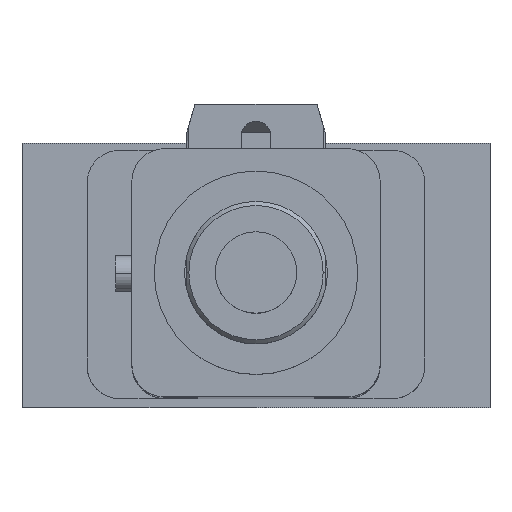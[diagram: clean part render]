
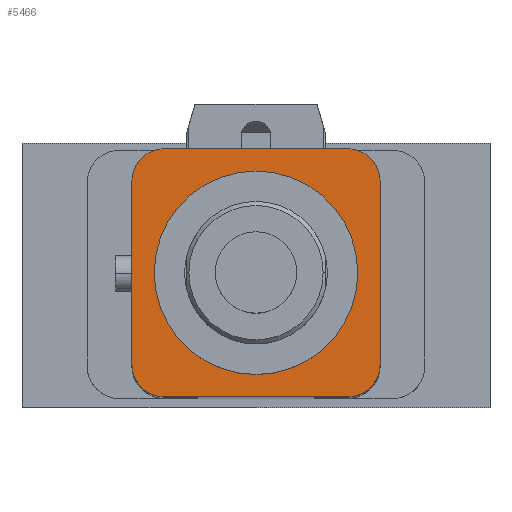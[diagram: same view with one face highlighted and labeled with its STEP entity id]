
A CAD part, top view. The second image highlights one B-rep face of the part: STEP entity #5466.
In plain terms, the highlighted planar face has unit normal (0, 0, 1).
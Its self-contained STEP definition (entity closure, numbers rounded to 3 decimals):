
#1085 = CARTESIAN_POINT ( 'NONE',  ( 22.5, -22.5, 197. ) ) ;
#1288 = DIRECTION ( 'NONE',  ( -1., 0., 0. ) ) ;
#1734 = CARTESIAN_POINT ( 'NONE',  ( -22.5, -22.5, 197. ) ) ;
#2048 = FACE_BOUND ( 'NONE', #23082, .T. ) ;
#2322 = VERTEX_POINT ( 'NONE', #18731 ) ;
#2334 = FACE_OUTER_BOUND ( 'NONE', #11933, .T. ) ;
#2416 = AXIS2_PLACEMENT_3D ( 'NONE', #19076, #3240, #1288 ) ;
#2903 = DIRECTION ( 'NONE',  ( 0., 1., 0. ) ) ;
#3240 = DIRECTION ( 'NONE',  ( 0., 0., 1. ) ) ;
#3517 = LINE ( 'NONE', #9525, #16698 ) ;
#3624 = EDGE_CURVE ( 'NONE', #22860, #19536, #3517, .T. ) ;
#3735 = CARTESIAN_POINT ( 'NONE',  ( 22.5, -22.5, 197. ) ) ;
#3831 = CARTESIAN_POINT ( 'NONE',  ( -25., 0., 197. ) ) ;
#4545 = ORIENTED_EDGE ( 'NONE', *, *, #25243, .T. ) ;
#4645 = DIRECTION ( 'NONE',  ( 1., 0., 0. ) ) ;
#4796 = EDGE_CURVE ( 'NONE', #6942, #10022, #5097, .T. ) ;
#4799 = ORIENTED_EDGE ( 'NONE', *, *, #10128, .T. ) ;
#4940 = ORIENTED_EDGE ( 'NONE', *, *, #18474, .F. ) ;
#5097 = LINE ( 'NONE', #14873, #7835 ) ;
#5440 = DIRECTION ( 'NONE',  ( 0., -1., 0. ) ) ;
#5466 = ADVANCED_FACE ( 'NONE', ( #2334, #2048 ), #15014, .T. ) ;
#5614 = ORIENTED_EDGE ( 'NONE', *, *, #3624, .T. ) ;
#6928 = ORIENTED_EDGE ( 'NONE', *, *, #25160, .T. ) ;
#6942 = VERTEX_POINT ( 'NONE', #11343 ) ;
#7831 = CARTESIAN_POINT ( 'NONE',  ( 0., 0., 197. ) ) ;
#7835 = VECTOR ( 'NONE', #2903, 1000. ) ;
#8282 = CARTESIAN_POINT ( 'NONE',  ( -30.5, -22.5, 197. ) ) ;
#8403 = ORIENTED_EDGE ( 'NONE', *, *, #23344, .T. ) ;
#8716 = CARTESIAN_POINT ( 'NONE',  ( -22.5, -30.5, 197. ) ) ;
#8880 = AXIS2_PLACEMENT_3D ( 'NONE', #25003, #9336, #19477 ) ;
#9024 = VERTEX_POINT ( 'NONE', #16901 ) ;
#9336 = DIRECTION ( 'NONE',  ( 0., 0., 1. ) ) ;
#9525 = CARTESIAN_POINT ( 'NONE',  ( -30.5, -22.5, 197. ) ) ;
#9536 = LINE ( 'NONE', #10634, #12002 ) ;
#9567 = DIRECTION ( 'NONE',  ( 0., 0., 1. ) ) ;
#10022 = VERTEX_POINT ( 'NONE', #10294 ) ;
#10128 = EDGE_CURVE ( 'NONE', #20855, #2322, #9536, .T. ) ;
#10294 = CARTESIAN_POINT ( 'NONE',  ( 30.5, 22.5, 197. ) ) ;
#10634 = CARTESIAN_POINT ( 'NONE',  ( -22.5, 30.5, 197. ) ) ;
#10811 = AXIS2_PLACEMENT_3D ( 'NONE', #1085, #24429, #12869 ) ;
#10966 = DIRECTION ( 'NONE',  ( -1., 0., 0. ) ) ;
#11251 = CARTESIAN_POINT ( 'NONE',  ( -30.5, 22.5, 197. ) ) ;
#11343 = CARTESIAN_POINT ( 'NONE',  ( 30.5, -22.5, 197. ) ) ;
#11414 = DIRECTION ( 'NONE',  ( 1., 0., 0. ) ) ;
#11563 = AXIS2_PLACEMENT_3D ( 'NONE', #3735, #19337, #11414 ) ;
#11933 = EDGE_LOOP ( 'NONE', ( #4545, #14034, #8403, #4799, #6928, #5614, #17097, #14919 ) ) ;
#12002 = VECTOR ( 'NONE', #10966, 1000. ) ;
#12178 = EDGE_CURVE ( 'NONE', #15777, #22948, #22572, .T. ) ;
#12748 = CARTESIAN_POINT ( 'NONE',  ( 22.5, 30.5, 197. ) ) ;
#12869 = DIRECTION ( 'NONE',  ( 1., 0., 0. ) ) ;
#13083 = EDGE_CURVE ( 'NONE', #25164, #9024, #14862, .T. ) ;
#13641 = CIRCLE ( 'NONE', #24362, 25. ) ;
#14034 = ORIENTED_EDGE ( 'NONE', *, *, #4796, .T. ) ;
#14243 = CARTESIAN_POINT ( 'NONE',  ( 25., 0., 197. ) ) ;
#14335 = EDGE_CURVE ( 'NONE', #19536, #25164, #19726, .T. ) ;
#14789 = DIRECTION ( 'NONE',  ( 0., 0., 1. ) ) ;
#14862 = LINE ( 'NONE', #8716, #15795 ) ;
#14873 = CARTESIAN_POINT ( 'NONE',  ( 30.5, -22.5, 197. ) ) ;
#14919 = ORIENTED_EDGE ( 'NONE', *, *, #13083, .T. ) ;
#15014 = PLANE ( 'NONE',  #10811 ) ;
#15777 = VERTEX_POINT ( 'NONE', #14243 ) ;
#15795 = VECTOR ( 'NONE', #4645, 1000. ) ;
#16413 = ORIENTED_EDGE ( 'NONE', *, *, #12178, .F. ) ;
#16698 = VECTOR ( 'NONE', #5440, 1000. ) ;
#16901 = CARTESIAN_POINT ( 'NONE',  ( 22.5, -30.5, 197. ) ) ;
#17097 = ORIENTED_EDGE ( 'NONE', *, *, #14335, .T. ) ;
#17191 = CIRCLE ( 'NONE', #8880, 8. ) ;
#17395 = DIRECTION ( 'NONE',  ( -1., 0., 0. ) ) ;
#17550 = DIRECTION ( 'NONE',  ( 0., 0., 1. ) ) ;
#17633 = DIRECTION ( 'NONE',  ( 1., 0., 0. ) ) ;
#18474 = EDGE_CURVE ( 'NONE', #22948, #15777, #13641, .T. ) ;
#18731 = CARTESIAN_POINT ( 'NONE',  ( -22.5, 30.5, 197. ) ) ;
#18922 = DIRECTION ( 'NONE',  ( 1., 0., 0. ) ) ;
#19076 = CARTESIAN_POINT ( 'NONE',  ( -22.5, 22.5, 197. ) ) ;
#19337 = DIRECTION ( 'NONE',  ( 0., 0., 1. ) ) ;
#19381 = AXIS2_PLACEMENT_3D ( 'NONE', #1734, #9567, #17395 ) ;
#19477 = DIRECTION ( 'NONE',  ( -1., 0., 0. ) ) ;
#19536 = VERTEX_POINT ( 'NONE', #8282 ) ;
#19726 = CIRCLE ( 'NONE', #19381, 8. ) ;
#20855 = VERTEX_POINT ( 'NONE', #12748 ) ;
#20958 = CARTESIAN_POINT ( 'NONE',  ( -22.5, -30.5, 197. ) ) ;
#22572 = CIRCLE ( 'NONE', #22616, 25. ) ;
#22616 = AXIS2_PLACEMENT_3D ( 'NONE', #7831, #17550, #17633 ) ;
#22860 = VERTEX_POINT ( 'NONE', #11251 ) ;
#22948 = VERTEX_POINT ( 'NONE', #3831 ) ;
#23082 = EDGE_LOOP ( 'NONE', ( #4940, #16413 ) ) ;
#23344 = EDGE_CURVE ( 'NONE', #10022, #20855, #17191, .T. ) ;
#24362 = AXIS2_PLACEMENT_3D ( 'NONE', #24551, #14789, #18922 ) ;
#24429 = DIRECTION ( 'NONE',  ( 0., 0., 1. ) ) ;
#24551 = CARTESIAN_POINT ( 'NONE',  ( 0., 0., 197. ) ) ;
#24725 = CIRCLE ( 'NONE', #2416, 8. ) ;
#25003 = CARTESIAN_POINT ( 'NONE',  ( 22.5, 22.5, 197. ) ) ;
#25160 = EDGE_CURVE ( 'NONE', #2322, #22860, #24725, .T. ) ;
#25164 = VERTEX_POINT ( 'NONE', #20958 ) ;
#25243 = EDGE_CURVE ( 'NONE', #9024, #6942, #25313, .T. ) ;
#25313 = CIRCLE ( 'NONE', #11563, 8. ) ;
